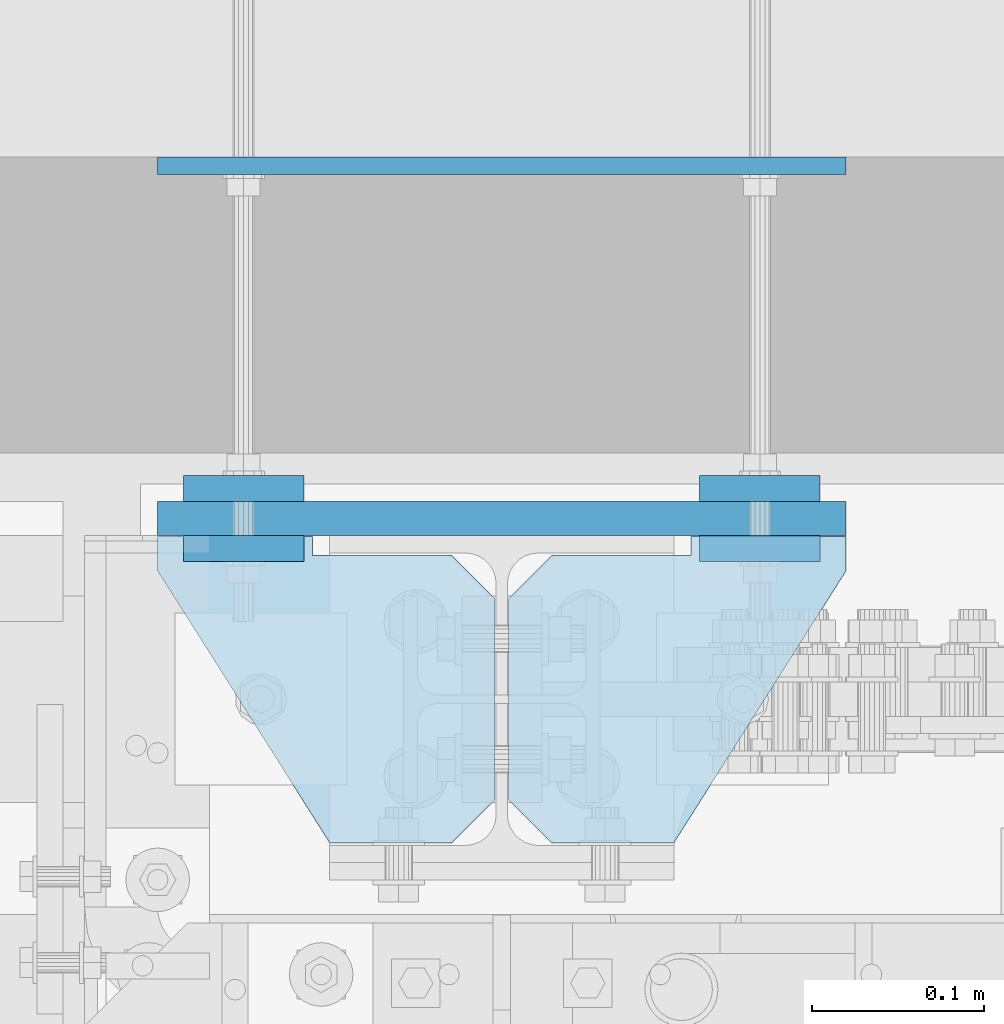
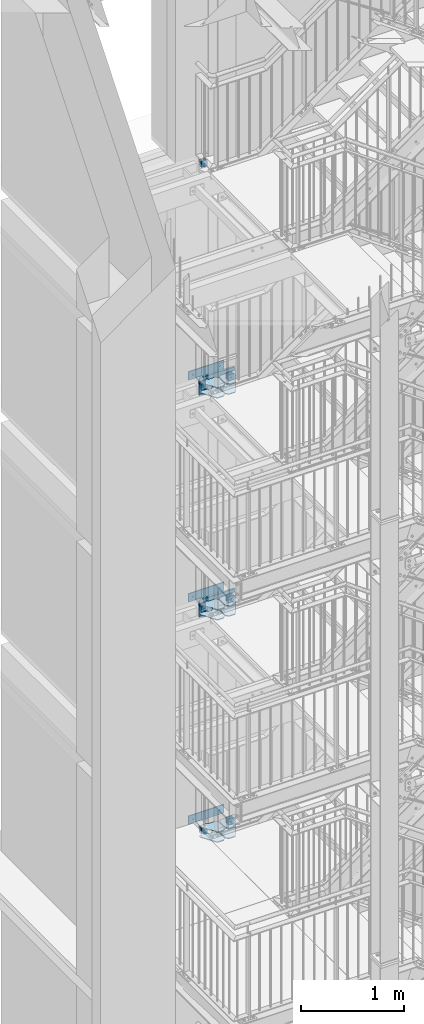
# One storey, part 183 of 821: 31 plates, 48 openings.
"""IFC2X3 building model written with IfcOpenShell, lengths in millimetres."""

from ifc_helpers import new_model, entity, si_unit, converted_unit, frame, frame_2d, origin, origin_with_axes, origin_2d_with_axis, place, context, project, spatial, polyline, circle, outline, extrude, material, layer, layer_set, element, save


model = new_model("IFC2X3")

# Units and contexts
model_context = context("Model", 3, precision=1e-09, world=origin_with_axes())
ifc_project = project(units=[si_unit("LENGTHUNIT", "METRE", prefix="MILLI"), si_unit("AREAUNIT", "SQUARE_METRE"), si_unit("VOLUMEUNIT", "CUBIC_METRE"), converted_unit("PLANEANGLEUNIT", "DEGREE", entity("IfcPlaneAngleMeasure", 0.01745329), si_unit("PLANEANGLEUNIT", "RADIAN"), dimensions=[0, 0, 0, 0, 0, 0, 0])], contexts=[model_context])

# Site, building, storey
site_placement = place(None, origin_with_axes())
site = spatial("IfcSite", under=ifc_project, at=site_placement, Name="Cnopf'sche Kinderklinik", CompositionType="ELEMENT")
building_placement = place(site_placement, origin_with_axes())
building = spatial("IfcBuilding", under=site, at=building_placement, Name="Struktur 1", CompositionType="ELEMENT")
storey_placement = place(building_placement, origin_with_axes())
storey = spatial("IfcBuildingStorey", under=building, at=storey_placement, Name="Default Storey", CompositionType="ELEMENT", Elevation=0.0)

# Plate, opening
ifc_material = material(Name="S235JR")
ifc_layer_1 = layer(ifc_material, 15.0)
ifc_layer_set_1 = layer_set([ifc_layer_1], Name="S235JR")
plate_1_placement = place(None, frame((4706.71340296, 7611.736971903, 7255.0), z_axis=(0.0, -1.0, 0.0), x_axis=(1.0, 0.0, 0.0)))
plate_1 = element("IfcPlate", 1, at=plate_1_placement, inside=storey, material=ifc_layer_set_1, Name="-", ObjectType="-", context=model_context, shape_type="SweptSolid", body=[
    extrude(outline(polyline([(-35.0, -35.0), (35.0, -35.0), (35.0, 35.0), (-35.0, 35.0), (-35.0, -35.0)])), origin_with_axes(), (0.0, 0.0, 1.0), 15.0),
])
opening_1_placement = place(plate_1_placement, frame((-2.68e-07, 0.0, -0.5), z_axis=(0.0, 0.0, 1.0), x_axis=(1.0, 0.0, 0.0)))
element("IfcOpeningElement", 2, at=opening_1_placement, cuts=plate_1, ObjectType="Opening", context=model_context, shape_type="SweptSolid", body=[
    extrude(circle(Radius=7.001, at=origin_2d_with_axis()), origin(), (0.0, 0.0, 1.0), 16.0),
])

plate_2_placement = place(None, frame((4706.71340296, 7646.736971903, 7255.0), z_axis=(0.0, -1.0, 0.0), x_axis=(1.0, 0.0, 0.0)))
plate_2 = element("IfcPlate", 3, at=plate_2_placement, inside=storey, material=ifc_layer_set_1, Name="-", ObjectType="-", context=model_context, shape_type="SweptSolid", body=[
    extrude(outline(polyline([(-35.0, -35.0), (35.0, -35.0), (35.0, 35.0), (-35.0, 35.0), (-35.0, -35.0)])), origin_with_axes(), (0.0, 0.0, 1.0), 15.0),
])
opening_2_placement = place(plate_2_placement, frame((-2.68e-07, 0.0, -0.5), z_axis=(0.0, 0.0, 1.0), x_axis=(1.0, 0.0, 0.0)))
element("IfcOpeningElement", 4, at=opening_2_placement, cuts=plate_2, ObjectType="Opening", context=model_context, shape_type="SweptSolid", body=[
    extrude(circle(Radius=7.001, at=origin_2d_with_axis()), origin(), (0.0, 0.0, 1.0), 16.0),
])

# Plate, openings
ifc_layer_2 = layer(ifc_material, 10.0)
ifc_layer_set_2 = layer_set([ifc_layer_2], Name="S235JR")
plate_3_placement = place(None, frame((4856.713402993, 7831.736971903, 7255.000000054), z_axis=(0.0, -1.0, 0.0), x_axis=(1.0, 0.0, 0.0)))
plate_3 = element("IfcPlate", 5, at=plate_3_placement, inside=storey, material=ifc_layer_set_2, Name="-", ObjectType="-", context=model_context, shape_type="SweptSolid", body=[
    extrude(outline(polyline([(-200.0, -50.0), (200.0, -50.0), (200.0, 50.0), (-200.0, 50.0), (-200.0, -50.0)])), origin_with_axes(), (0.0, 0.0, 1.0), 10.0),
])
opening_3_placement = place(plate_3_placement, frame((-3.4e-08, -5.4e-08, -0.5), z_axis=(0.0, 0.0, 1.0), x_axis=(1.0, 0.0, 0.0)))
element("IfcOpeningElement", 6, at=opening_3_placement, cuts=plate_3, ObjectType="Opening", context=model_context, shape_type="SweptSolid", body=[
    extrude(circle(Radius=7.001, at=frame_2d((150.0, 0.0), x_axis=(1.0, 0.0))), origin(), (0.0, 0.0, 1.0), 11.0),
])
opening_4_placement = place(plate_3_placement, frame((-3.4e-08, -5.4e-08, -0.5), z_axis=(0.0, 0.0, 1.0), x_axis=(1.0, 0.0, 0.0)))
element("IfcOpeningElement", 7, at=opening_4_placement, cuts=plate_3, ObjectType="Opening", context=model_context, shape_type="SweptSolid", body=[
    extrude(circle(Radius=7.001, at=frame_2d((-150.0, 0.0), x_axis=(1.0, 0.0))), origin(), (0.0, 0.0, 1.0), 11.0),
])

plate_4_placement = place(None, frame((4656.713402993, 7611.236971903, 7310.000000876), z_axis=(0.0, 0.0, 1.0), x_axis=(0.0, -1.0, 0.0)))
plate_4 = element("IfcPlate", 8, at=plate_4_placement, inside=storey, material=ifc_layer_set_2, Name="-", ObjectType="-", context=model_context, shape_type="SweptSolid", body=[
    extrude(outline(polyline([(0.0, 0.0), (20.0, 0.0), (178.0, 100.0), (178.0, 196.0), (11.0, 196.0), (11.0, 90.0), (0.0, 90.0), (0.0, 0.0)])), origin_with_axes(), (0.0, 0.0, 1.0), 10.0),
])
opening_5_placement = place(plate_4_placement, frame((0.0, 0.0, -0.01), z_axis=(0.0, 0.0, 1.0), x_axis=(1.0, 0.0, 0.0)))
element("IfcOpeningElement", 9, at=opening_5_placement, cuts=plate_4, ObjectType="Opening", context=model_context, shape_type="SweptSolid", body=[
    extrude(outline(polyline([(11.0, 196.0), (11.0, 171.0), (36.0, 196.0), (11.0, 196.0)])), origin(), (0.0, 0.0, 1.0), 10.02),
])
opening_6_placement = place(plate_4_placement, frame((0.0, 0.0, -0.01), z_axis=(0.0, 0.0, 1.0), x_axis=(1.0, 0.0, 0.0)))
element("IfcOpeningElement", 10, at=opening_6_placement, cuts=plate_4, ObjectType="Opening", context=model_context, shape_type="SweptSolid", body=[
    extrude(outline(polyline([(178.0, 196.0), (153.0, 196.0), (178.0, 171.0), (178.0, 196.0)])), origin(), (0.0, 0.0, 1.0), 10.02),
])

plate_5_placement = place(None, frame((5056.713402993, 7611.236971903, 7310.000000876), z_axis=(0.0, 0.0, -1.0), x_axis=(0.0, -1.0, 0.0)))
plate_5 = element("IfcPlate", 11, at=plate_5_placement, inside=storey, material=ifc_layer_set_2, Name="-", ObjectType="-", context=model_context, shape_type="SweptSolid", body=[
    extrude(outline(polyline([(0.0, 0.0), (20.0, 0.0), (178.0, 100.0), (178.0, 196.0), (11.0, 196.0), (11.0, 90.0), (0.0, 90.0), (0.0, 0.0)])), origin_with_axes(), (0.0, 0.0, -1.0), 10.0),
])
opening_7_placement = place(plate_5_placement, frame((11.0, 196.0, 0.01), z_axis=(0.0, 0.0, 1.0), x_axis=(0.0, -1.0, 0.0)))
element("IfcOpeningElement", 12, at=opening_7_placement, cuts=plate_5, ObjectType="Opening", context=model_context, shape_type="SweptSolid", body=[
    extrude(outline(polyline([(0.0, 0.0), (25.0, 0.0), (0.0, 25.0), (0.0, 0.0)])), origin(), (0.0, 0.0, -1.0), 10.02),
])
opening_8_placement = place(plate_5_placement, frame((178.0, 196.0, 0.01), z_axis=(0.0, 0.0, 1.0), x_axis=(-1.0, 0.0, 0.0)))
element("IfcOpeningElement", 13, at=opening_8_placement, cuts=plate_5, ObjectType="Opening", context=model_context, shape_type="SweptSolid", body=[
    extrude(outline(polyline([(0.0, 0.0), (25.0, 0.0), (0.0, 25.0), (0.0, 0.0)])), origin(), (0.0, 0.0, -1.0), 10.02),
])

plate_6_placement = place(None, frame((4656.713402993, 7611.236971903, 7190.000000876), z_axis=(0.0, 0.0, 1.0), x_axis=(0.0, -1.0, 0.0)))
plate_6 = element("IfcPlate", 14, at=plate_6_placement, inside=storey, material=ifc_layer_set_2, Name="-", ObjectType="-", context=model_context, shape_type="SweptSolid", body=[
    extrude(outline(polyline([(0.0, 0.0), (20.0, 0.0), (178.0, 100.0), (178.0, 196.0), (11.0, 196.0), (11.0, 90.0), (0.0, 90.0), (0.0, 0.0)])), origin_with_axes(), (0.0, 0.0, 1.0), 10.0),
])
opening_9_placement = place(plate_6_placement, frame((0.0, 0.0, -0.01), z_axis=(0.0, 0.0, 1.0), x_axis=(1.0, 0.0, 0.0)))
element("IfcOpeningElement", 15, at=opening_9_placement, cuts=plate_6, ObjectType="Opening", context=model_context, shape_type="SweptSolid", body=[
    extrude(outline(polyline([(11.0, 196.0), (11.0, 171.0), (36.0, 196.0), (11.0, 196.0)])), origin(), (0.0, 0.0, 1.0), 10.02),
])
opening_10_placement = place(plate_6_placement, frame((0.0, 0.0, -0.01), z_axis=(0.0, 0.0, 1.0), x_axis=(1.0, 0.0, 0.0)))
element("IfcOpeningElement", 16, at=opening_10_placement, cuts=plate_6, ObjectType="Opening", context=model_context, shape_type="SweptSolid", body=[
    extrude(outline(polyline([(178.0, 196.0), (153.0, 196.0), (178.0, 171.0), (178.0, 196.0)])), origin(), (0.0, 0.0, 1.0), 10.02),
])

plate_7_placement = place(None, frame((5056.713402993, 7611.236971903, 7190.000000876), z_axis=(0.0, 0.0, -1.0), x_axis=(0.0, -1.0, 0.0)))
plate_7 = element("IfcPlate", 17, at=plate_7_placement, inside=storey, material=ifc_layer_set_2, Name="-", ObjectType="-", context=model_context, shape_type="SweptSolid", body=[
    extrude(outline(polyline([(0.0, 0.0), (20.0, 0.0), (178.0, 100.0), (178.0, 196.0), (11.0, 196.0), (11.0, 90.0), (0.0, 90.0), (0.0, 0.0)])), origin_with_axes(), (0.0, 0.0, -1.0), 10.0),
])
opening_11_placement = place(plate_7_placement, frame((11.0, 196.0, 0.01), z_axis=(0.0, 0.0, 1.0), x_axis=(0.0, -1.0, 0.0)))
element("IfcOpeningElement", 18, at=opening_11_placement, cuts=plate_7, ObjectType="Opening", context=model_context, shape_type="SweptSolid", body=[
    extrude(outline(polyline([(0.0, 0.0), (25.0, 0.0), (0.0, 25.0), (0.0, 0.0)])), origin(), (0.0, 0.0, -1.0), 10.02),
])
opening_12_placement = place(plate_7_placement, frame((178.0, 196.0, 0.01), z_axis=(0.0, 0.0, 1.0), x_axis=(-1.0, 0.0, 0.0)))
element("IfcOpeningElement", 19, at=opening_12_placement, cuts=plate_7, ObjectType="Opening", context=model_context, shape_type="SweptSolid", body=[
    extrude(outline(polyline([(0.0, 0.0), (25.0, 0.0), (0.0, 25.0), (0.0, 0.0)])), origin(), (0.0, 0.0, -1.0), 10.02),
])

# Plate, opening
plate_8_placement = place(None, frame((5006.713403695, 7611.736971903, 7255.0), z_axis=(0.0, 1.0, 0.0), x_axis=(-1.0, 0.0, 0.0)))
plate_8 = element("IfcPlate", 20, at=plate_8_placement, inside=storey, material=ifc_layer_set_1, Name="-", ObjectType="-", context=model_context, shape_type="SweptSolid", body=[
    extrude(outline(polyline([(-35.0, -35.0), (35.0, -35.0), (35.0, 35.0), (-35.0, 35.0), (-35.0, -35.0)])), origin_with_axes(), (0.0, 0.0, -1.0), 15.0),
])
opening_13_placement = place(plate_8_placement, frame((-7.001000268, 0.0, 0.5), z_axis=(0.0, 0.0, 1.0), x_axis=(1.0, 0.0, 0.0)))
element("IfcOpeningElement", 21, at=opening_13_placement, cuts=plate_8, ObjectType="Opening", context=model_context, shape_type="SweptSolid", body=[
    extrude(circle(Radius=7.001, at=frame_2d((7.001, 0.0), x_axis=(1.0, 0.0))), origin(), (0.0, 0.0, -1.0), 16.0),
])

plate_9_placement = place(None, frame((5006.713403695, 7646.736971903, 7255.0), z_axis=(0.0, 1.0, 0.0), x_axis=(-1.0, 0.0, 0.0)))
plate_9 = element("IfcPlate", 22, at=plate_9_placement, inside=storey, material=ifc_layer_set_1, Name="-", ObjectType="-", context=model_context, shape_type="SweptSolid", body=[
    extrude(outline(polyline([(-35.0, -35.0), (35.0, -35.0), (35.0, 35.0), (-35.0, 35.0), (-35.0, -35.0)])), origin_with_axes(), (0.0, 0.0, -1.0), 15.0),
])
opening_14_placement = place(plate_9_placement, frame((-7.001000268, 0.0, 0.5), z_axis=(0.0, 0.0, 1.0), x_axis=(1.0, 0.0, 0.0)))
element("IfcOpeningElement", 23, at=opening_14_placement, cuts=plate_9, ObjectType="Opening", context=model_context, shape_type="SweptSolid", body=[
    extrude(circle(Radius=7.001, at=frame_2d((7.001, 0.0), x_axis=(1.0, 0.0))), origin(), (0.0, 0.0, -1.0), 16.0),
])

plate_10_placement = place(None, frame((5006.713403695, 7611.736971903, 9887.0), z_axis=(0.0, 1.0, 0.0), x_axis=(-1.0, 0.0, 0.0)))
plate_10 = element("IfcPlate", 24, at=plate_10_placement, inside=storey, material=ifc_layer_set_1, Name="-", ObjectType="-", context=model_context, shape_type="SweptSolid", body=[
    extrude(outline(polyline([(-35.0, -35.0), (35.0, -35.0), (35.0, 35.0), (-35.0, 35.0), (-35.0, -35.0)])), origin_with_axes(), (0.0, 0.0, -1.0), 15.0),
])
opening_15_placement = place(plate_10_placement, frame((-7.001000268, 0.0, 0.5), z_axis=(0.0, 0.0, 1.0), x_axis=(1.0, 0.0, 0.0)))
element("IfcOpeningElement", 25, at=opening_15_placement, cuts=plate_10, ObjectType="Opening", context=model_context, shape_type="SweptSolid", body=[
    extrude(circle(Radius=7.001, at=frame_2d((7.001, 0.0), x_axis=(1.0, 0.0))), origin(), (0.0, 0.0, -1.0), 16.0),
])

plate_11_placement = place(None, frame((5006.713403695, 7646.736971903, 9887.0), z_axis=(0.0, 1.0, 0.0), x_axis=(-1.0, 0.0, 0.0)))
plate_11 = element("IfcPlate", 26, at=plate_11_placement, inside=storey, material=ifc_layer_set_1, Name="-", ObjectType="-", context=model_context, shape_type="SweptSolid", body=[
    extrude(outline(polyline([(-35.0, -35.0), (35.0, -35.0), (35.0, 35.0), (-35.0, 35.0), (-35.0, -35.0)])), origin_with_axes(), (0.0, 0.0, -1.0), 15.0),
])
opening_16_placement = place(plate_11_placement, frame((-7.001000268, 0.0, 0.5), z_axis=(0.0, 0.0, 1.0), x_axis=(1.0, 0.0, 0.0)))
element("IfcOpeningElement", 27, at=opening_16_placement, cuts=plate_11, ObjectType="Opening", context=model_context, shape_type="SweptSolid", body=[
    extrude(circle(Radius=7.001, at=frame_2d((7.001, 0.0), x_axis=(1.0, 0.0))), origin(), (0.0, 0.0, -1.0), 16.0),
])

# Plate, openings
plate_12_placement = place(None, frame((4856.713402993, 7831.736971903, 9887.000000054), z_axis=(0.0, -1.0, 0.0), x_axis=(1.0, 0.0, 0.0)))
plate_12 = element("IfcPlate", 28, at=plate_12_placement, inside=storey, material=ifc_layer_set_2, Name="-", ObjectType="-", context=model_context, shape_type="SweptSolid", body=[
    extrude(outline(polyline([(-200.0, -50.0), (200.0, -50.0), (200.0, 50.0), (-200.0, 50.0), (-200.0, -50.0)])), origin_with_axes(), (0.0, 0.0, 1.0), 10.0),
])
opening_17_placement = place(plate_12_placement, frame((-3.4e-08, -5.4e-08, -0.5), z_axis=(0.0, 0.0, 1.0), x_axis=(1.0, 0.0, 0.0)))
element("IfcOpeningElement", 29, at=opening_17_placement, cuts=plate_12, ObjectType="Opening", context=model_context, shape_type="SweptSolid", body=[
    extrude(circle(Radius=7.001, at=frame_2d((150.0, 0.0), x_axis=(1.0, 0.0))), origin(), (0.0, 0.0, 1.0), 11.0),
])
opening_18_placement = place(plate_12_placement, frame((-3.4e-08, -5.4e-08, -0.5), z_axis=(0.0, 0.0, 1.0), x_axis=(1.0, 0.0, 0.0)))
element("IfcOpeningElement", 30, at=opening_18_placement, cuts=plate_12, ObjectType="Opening", context=model_context, shape_type="SweptSolid", body=[
    extrude(circle(Radius=7.001, at=frame_2d((-150.0, 0.0), x_axis=(1.0, 0.0))), origin(), (0.0, 0.0, 1.0), 11.0),
])

plate_13_placement = place(None, frame((4656.713402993, 7611.236971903, 9942.000000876), z_axis=(0.0, 0.0, 1.0), x_axis=(0.0, -1.0, 0.0)))
plate_13 = element("IfcPlate", 31, at=plate_13_placement, inside=storey, material=ifc_layer_set_2, Name="-", ObjectType="-", context=model_context, shape_type="SweptSolid", body=[
    extrude(outline(polyline([(0.0, 0.0), (20.0, 0.0), (178.0, 100.0), (178.0, 196.0), (11.0, 196.0), (11.0, 90.0), (0.0, 90.0), (0.0, 0.0)])), origin_with_axes(), (0.0, 0.0, 1.0), 10.0),
])
opening_19_placement = place(plate_13_placement, frame((0.0, 0.0, -0.01), z_axis=(0.0, 0.0, 1.0), x_axis=(1.0, 0.0, 0.0)))
element("IfcOpeningElement", 32, at=opening_19_placement, cuts=plate_13, ObjectType="Opening", context=model_context, shape_type="SweptSolid", body=[
    extrude(outline(polyline([(11.0, 196.0), (11.0, 171.0), (36.0, 196.0), (11.0, 196.0)])), origin(), (0.0, 0.0, 1.0), 10.02),
])
opening_20_placement = place(plate_13_placement, frame((0.0, 0.0, -0.01), z_axis=(0.0, 0.0, 1.0), x_axis=(1.0, 0.0, 0.0)))
element("IfcOpeningElement", 33, at=opening_20_placement, cuts=plate_13, ObjectType="Opening", context=model_context, shape_type="SweptSolid", body=[
    extrude(outline(polyline([(178.0, 196.0), (153.0, 196.0), (178.0, 171.0), (178.0, 196.0)])), origin(), (0.0, 0.0, 1.0), 10.02),
])

plate_14_placement = place(None, frame((5056.713402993, 7611.236971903, 9942.000000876), z_axis=(0.0, 0.0, -1.0), x_axis=(0.0, -1.0, 0.0)))
plate_14 = element("IfcPlate", 34, at=plate_14_placement, inside=storey, material=ifc_layer_set_2, Name="-", ObjectType="-", context=model_context, shape_type="SweptSolid", body=[
    extrude(outline(polyline([(0.0, 0.0), (20.0, 0.0), (178.0, 100.0), (178.0, 196.0), (11.0, 196.0), (11.0, 90.0), (0.0, 90.0), (0.0, 0.0)])), origin_with_axes(), (0.0, 0.0, -1.0), 10.0),
])
opening_21_placement = place(plate_14_placement, frame((11.0, 196.0, 0.01), z_axis=(0.0, 0.0, 1.0), x_axis=(0.0, -1.0, 0.0)))
element("IfcOpeningElement", 35, at=opening_21_placement, cuts=plate_14, ObjectType="Opening", context=model_context, shape_type="SweptSolid", body=[
    extrude(outline(polyline([(0.0, 0.0), (25.0, 0.0), (0.0, 25.0), (0.0, 0.0)])), origin(), (0.0, 0.0, -1.0), 10.02),
])
opening_22_placement = place(plate_14_placement, frame((178.0, 196.0, 0.01), z_axis=(0.0, 0.0, 1.0), x_axis=(-1.0, 0.0, 0.0)))
element("IfcOpeningElement", 36, at=opening_22_placement, cuts=plate_14, ObjectType="Opening", context=model_context, shape_type="SweptSolid", body=[
    extrude(outline(polyline([(0.0, 0.0), (25.0, 0.0), (0.0, 25.0), (0.0, 0.0)])), origin(), (0.0, 0.0, -1.0), 10.02),
])

plate_15_placement = place(None, frame((4656.713402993, 7611.236971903, 9822.000000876), z_axis=(0.0, 0.0, 1.0), x_axis=(0.0, -1.0, 0.0)))
plate_15 = element("IfcPlate", 37, at=plate_15_placement, inside=storey, material=ifc_layer_set_2, Name="-", ObjectType="-", context=model_context, shape_type="SweptSolid", body=[
    extrude(outline(polyline([(0.0, 0.0), (20.0, 0.0), (178.0, 100.0), (178.0, 196.0), (11.0, 196.0), (11.0, 90.0), (0.0, 90.0), (0.0, 0.0)])), origin_with_axes(), (0.0, 0.0, 1.0), 10.0),
])
opening_23_placement = place(plate_15_placement, frame((0.0, 0.0, -0.01), z_axis=(0.0, 0.0, 1.0), x_axis=(1.0, 0.0, 0.0)))
element("IfcOpeningElement", 38, at=opening_23_placement, cuts=plate_15, ObjectType="Opening", context=model_context, shape_type="SweptSolid", body=[
    extrude(outline(polyline([(11.0, 196.0), (11.0, 171.0), (36.0, 196.0), (11.0, 196.0)])), origin(), (0.0, 0.0, 1.0), 10.02),
])
opening_24_placement = place(plate_15_placement, frame((0.0, 0.0, -0.01), z_axis=(0.0, 0.0, 1.0), x_axis=(1.0, 0.0, 0.0)))
element("IfcOpeningElement", 39, at=opening_24_placement, cuts=plate_15, ObjectType="Opening", context=model_context, shape_type="SweptSolid", body=[
    extrude(outline(polyline([(178.0, 196.0), (153.0, 196.0), (178.0, 171.0), (178.0, 196.0)])), origin(), (0.0, 0.0, 1.0), 10.02),
])

plate_16_placement = place(None, frame((5056.713402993, 7611.236971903, 9822.000000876), z_axis=(0.0, 0.0, -1.0), x_axis=(0.0, -1.0, 0.0)))
plate_16 = element("IfcPlate", 40, at=plate_16_placement, inside=storey, material=ifc_layer_set_2, Name="-", ObjectType="-", context=model_context, shape_type="SweptSolid", body=[
    extrude(outline(polyline([(0.0, 0.0), (20.0, 0.0), (178.0, 100.0), (178.0, 196.0), (11.0, 196.0), (11.0, 90.0), (0.0, 90.0), (0.0, 0.0)])), origin_with_axes(), (0.0, 0.0, -1.0), 10.0),
])
opening_25_placement = place(plate_16_placement, frame((11.0, 196.0, 0.01), z_axis=(0.0, 0.0, 1.0), x_axis=(0.0, -1.0, 0.0)))
element("IfcOpeningElement", 41, at=opening_25_placement, cuts=plate_16, ObjectType="Opening", context=model_context, shape_type="SweptSolid", body=[
    extrude(outline(polyline([(0.0, 0.0), (25.0, 0.0), (0.0, 25.0), (0.0, 0.0)])), origin(), (0.0, 0.0, -1.0), 10.02),
])
opening_26_placement = place(plate_16_placement, frame((178.0, 196.0, 0.01), z_axis=(0.0, 0.0, 1.0), x_axis=(-1.0, 0.0, 0.0)))
element("IfcOpeningElement", 42, at=opening_26_placement, cuts=plate_16, ObjectType="Opening", context=model_context, shape_type="SweptSolid", body=[
    extrude(outline(polyline([(0.0, 0.0), (25.0, 0.0), (0.0, 25.0), (0.0, 0.0)])), origin(), (0.0, 0.0, -1.0), 10.02),
])

ifc_layer_3 = layer(ifc_material, 20.0)
ifc_layer_set_3 = layer_set([ifc_layer_3], Name="S235JR")
plate_17_placement = place(None, frame((4856.713402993, 7631.736971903, 9887.000000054), z_axis=(0.0, -1.0, 0.0), x_axis=(1.0, 0.0, 0.0)))
plate_17 = element("IfcPlate", 43, at=plate_17_placement, inside=storey, material=ifc_layer_set_3, Name="-", ObjectType="-", context=model_context, shape_type="SweptSolid", body=[
    extrude(outline(polyline([(-200.0, -100.0), (200.0, -100.0), (200.0, 100.0), (-200.0, 100.0), (-200.0, -100.0)])), origin_with_axes(), (0.0, 0.0, 1.0), 20.0),
])
opening_27_placement = place(plate_17_placement, frame((-3.4e-08, -5.4e-08, -0.5), z_axis=(0.0, 0.0, 1.0), x_axis=(1.0, 0.0, 0.0)))
element("IfcOpeningElement", 44, at=opening_27_placement, cuts=plate_17, ObjectType="Opening", context=model_context, shape_type="SweptSolid", body=[
    extrude(circle(Radius=20.001, at=frame_2d((150.0, 0.0), x_axis=(1.0, 0.0))), origin(), (0.0, 0.0, 1.0), 21.0),
])
opening_28_placement = place(plate_17_placement, frame((-3.4e-08, -5.4e-08, -0.5), z_axis=(0.0, 0.0, 1.0), x_axis=(1.0, 0.0, 0.0)))
element("IfcOpeningElement", 45, at=opening_28_placement, cuts=plate_17, ObjectType="Opening", context=model_context, shape_type="SweptSolid", body=[
    extrude(circle(Radius=20.001, at=frame_2d((-150.0, 0.0), x_axis=(1.0, 0.0))), origin(), (0.0, 0.0, 1.0), 21.0),
])

# Plate, opening
plate_18_placement = place(None, frame((4706.71340296, 7611.736971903, 9887.0), z_axis=(0.0, -1.0, 0.0), x_axis=(1.0, 0.0, 0.0)))
plate_18 = element("IfcPlate", 46, at=plate_18_placement, inside=storey, material=ifc_layer_set_1, Name="-", ObjectType="-", context=model_context, shape_type="SweptSolid", body=[
    extrude(outline(polyline([(-35.0, -35.0), (35.0, -35.0), (35.0, 35.0), (-35.0, 35.0), (-35.0, -35.0)])), origin_with_axes(), (0.0, 0.0, 1.0), 15.0),
])
opening_29_placement = place(plate_18_placement, frame((-2.68e-07, 0.0, -0.5), z_axis=(0.0, 0.0, 1.0), x_axis=(1.0, 0.0, 0.0)))
element("IfcOpeningElement", 47, at=opening_29_placement, cuts=plate_18, ObjectType="Opening", context=model_context, shape_type="SweptSolid", body=[
    extrude(circle(Radius=7.001, at=origin_2d_with_axis()), origin(), (0.0, 0.0, 1.0), 16.0),
])

plate_19_placement = place(None, frame((4706.71340296, 7646.736971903, 9887.0), z_axis=(0.0, -1.0, 0.0), x_axis=(1.0, 0.0, 0.0)))
plate_19 = element("IfcPlate", 48, at=plate_19_placement, inside=storey, material=ifc_layer_set_1, Name="-", ObjectType="-", context=model_context, shape_type="SweptSolid", body=[
    extrude(outline(polyline([(-35.0, -35.0), (35.0, -35.0), (35.0, 35.0), (-35.0, 35.0), (-35.0, -35.0)])), origin_with_axes(), (0.0, 0.0, 1.0), 15.0),
])
opening_30_placement = place(plate_19_placement, frame((-2.68e-07, 0.0, -0.5), z_axis=(0.0, 0.0, 1.0), x_axis=(1.0, 0.0, 0.0)))
element("IfcOpeningElement", 49, at=opening_30_placement, cuts=plate_19, ObjectType="Opening", context=model_context, shape_type="SweptSolid", body=[
    extrude(circle(Radius=7.001, at=origin_2d_with_axis()), origin(), (0.0, 0.0, 1.0), 16.0),
])

plate_20_placement = place(None, frame((4706.71340296, 7611.736971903, 12514.0), z_axis=(0.0, -1.0, 0.0), x_axis=(1.0, 0.0, 0.0)))
plate_20 = element("IfcPlate", 50, at=plate_20_placement, inside=storey, material=ifc_layer_set_1, Name="-", ObjectType="-", context=model_context, shape_type="SweptSolid", body=[
    extrude(outline(polyline([(-35.0, -35.0), (35.0, -35.0), (35.0, 35.0), (-35.0, 35.0), (-35.0, -35.0)])), origin_with_axes(), (0.0, 0.0, 1.0), 15.0),
])
opening_31_placement = place(plate_20_placement, frame((-2.68e-07, 0.0, -0.5), z_axis=(0.0, 0.0, 1.0), x_axis=(1.0, 0.0, 0.0)))
element("IfcOpeningElement", 51, at=opening_31_placement, cuts=plate_20, ObjectType="Opening", context=model_context, shape_type="SweptSolid", body=[
    extrude(circle(Radius=7.001, at=origin_2d_with_axis()), origin(), (0.0, 0.0, 1.0), 16.0),
])

# Plate, openings
plate_21_placement = place(None, frame((5056.713402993, 7611.236971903, 12449.000000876), z_axis=(0.0, 0.0, -1.0), x_axis=(0.0, -1.0, 0.0)))
plate_21 = element("IfcPlate", 52, at=plate_21_placement, inside=storey, material=ifc_layer_set_2, Name="-", ObjectType="-", context=model_context, shape_type="SweptSolid", body=[
    extrude(outline(polyline([(0.0, 0.0), (20.0, 0.0), (178.0, 100.0), (178.0, 196.0), (11.0, 196.0), (11.0, 90.0), (0.0, 90.0), (0.0, 0.0)])), origin_with_axes(), (0.0, 0.0, -1.0), 10.0),
])
opening_32_placement = place(plate_21_placement, frame((11.0, 196.0, 0.01), z_axis=(0.0, 0.0, 1.0), x_axis=(0.0, -1.0, 0.0)))
element("IfcOpeningElement", 53, at=opening_32_placement, cuts=plate_21, ObjectType="Opening", context=model_context, shape_type="SweptSolid", body=[
    extrude(outline(polyline([(0.0, 0.0), (25.0, 0.0), (0.0, 25.0), (0.0, 0.0)])), origin(), (0.0, 0.0, -1.0), 10.02),
])
opening_33_placement = place(plate_21_placement, frame((178.0, 196.0, 0.01), z_axis=(0.0, 0.0, 1.0), x_axis=(-1.0, 0.0, 0.0)))
element("IfcOpeningElement", 54, at=opening_33_placement, cuts=plate_21, ObjectType="Opening", context=model_context, shape_type="SweptSolid", body=[
    extrude(outline(polyline([(0.0, 0.0), (25.0, 0.0), (0.0, 25.0), (0.0, 0.0)])), origin(), (0.0, 0.0, -1.0), 10.02),
])

plate_22_placement = place(None, frame((5056.713402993, 7611.236971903, 12569.000000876), z_axis=(0.0, 0.0, -1.0), x_axis=(0.0, -1.0, 0.0)))
plate_22 = element("IfcPlate", 55, at=plate_22_placement, inside=storey, material=ifc_layer_set_2, Name="-", ObjectType="-", context=model_context, shape_type="SweptSolid", body=[
    extrude(outline(polyline([(0.0, 0.0), (20.0, 0.0), (178.0, 100.0), (178.0, 196.0), (11.0, 196.0), (11.0, 90.0), (0.0, 90.0), (0.0, 0.0)])), origin_with_axes(), (0.0, 0.0, -1.0), 10.0),
])
opening_34_placement = place(plate_22_placement, frame((11.0, 196.0, 0.01), z_axis=(0.0, 0.0, 1.0), x_axis=(0.0, -1.0, 0.0)))
element("IfcOpeningElement", 56, at=opening_34_placement, cuts=plate_22, ObjectType="Opening", context=model_context, shape_type="SweptSolid", body=[
    extrude(outline(polyline([(0.0, 0.0), (25.0, 0.0), (0.0, 25.0), (0.0, 0.0)])), origin(), (0.0, 0.0, -1.0), 10.02),
])
opening_35_placement = place(plate_22_placement, frame((178.0, 196.0, 0.01), z_axis=(0.0, 0.0, 1.0), x_axis=(-1.0, 0.0, 0.0)))
element("IfcOpeningElement", 57, at=opening_35_placement, cuts=plate_22, ObjectType="Opening", context=model_context, shape_type="SweptSolid", body=[
    extrude(outline(polyline([(0.0, 0.0), (25.0, 0.0), (0.0, 25.0), (0.0, 0.0)])), origin(), (0.0, 0.0, -1.0), 10.02),
])

plate_23_placement = place(None, frame((4656.713402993, 7611.236971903, 12449.000000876), z_axis=(0.0, 0.0, 1.0), x_axis=(0.0, -1.0, 0.0)))
plate_23 = element("IfcPlate", 58, at=plate_23_placement, inside=storey, material=ifc_layer_set_2, Name="-", ObjectType="-", context=model_context, shape_type="SweptSolid", body=[
    extrude(outline(polyline([(0.0, 0.0), (20.0, 0.0), (178.0, 100.0), (178.0, 196.0), (11.0, 196.0), (11.0, 90.0), (0.0, 90.0), (0.0, 0.0)])), origin_with_axes(), (0.0, 0.0, 1.0), 10.0),
])
opening_36_placement = place(plate_23_placement, frame((0.0, 0.0, -0.01), z_axis=(0.0, 0.0, 1.0), x_axis=(1.0, 0.0, 0.0)))
element("IfcOpeningElement", 59, at=opening_36_placement, cuts=plate_23, ObjectType="Opening", context=model_context, shape_type="SweptSolid", body=[
    extrude(outline(polyline([(11.0, 196.0), (11.0, 171.0), (36.0, 196.0), (11.0, 196.0)])), origin(), (0.0, 0.0, 1.0), 10.02),
])
opening_37_placement = place(plate_23_placement, frame((0.0, 0.0, -0.01), z_axis=(0.0, 0.0, 1.0), x_axis=(1.0, 0.0, 0.0)))
element("IfcOpeningElement", 60, at=opening_37_placement, cuts=plate_23, ObjectType="Opening", context=model_context, shape_type="SweptSolid", body=[
    extrude(outline(polyline([(178.0, 196.0), (153.0, 196.0), (178.0, 171.0), (178.0, 196.0)])), origin(), (0.0, 0.0, 1.0), 10.02),
])

plate_24_placement = place(None, frame((4656.713402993, 7611.236971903, 12569.000000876), z_axis=(0.0, 0.0, 1.0), x_axis=(0.0, -1.0, 0.0)))
plate_24 = element("IfcPlate", 61, at=plate_24_placement, inside=storey, material=ifc_layer_set_2, Name="-", ObjectType="-", context=model_context, shape_type="SweptSolid", body=[
    extrude(outline(polyline([(0.0, 0.0), (20.0, 0.0), (178.0, 100.0), (178.0, 196.0), (11.0, 196.0), (11.0, 90.0), (0.0, 90.0), (0.0, 0.0)])), origin_with_axes(), (0.0, 0.0, 1.0), 10.0),
])
opening_38_placement = place(plate_24_placement, frame((0.0, 0.0, -0.01), z_axis=(0.0, 0.0, 1.0), x_axis=(1.0, 0.0, 0.0)))
element("IfcOpeningElement", 62, at=opening_38_placement, cuts=plate_24, ObjectType="Opening", context=model_context, shape_type="SweptSolid", body=[
    extrude(outline(polyline([(11.0, 196.0), (11.0, 171.0), (36.0, 196.0), (11.0, 196.0)])), origin(), (0.0, 0.0, 1.0), 10.02),
])
opening_39_placement = place(plate_24_placement, frame((0.0, 0.0, -0.01), z_axis=(0.0, 0.0, 1.0), x_axis=(1.0, 0.0, 0.0)))
element("IfcOpeningElement", 63, at=opening_39_placement, cuts=plate_24, ObjectType="Opening", context=model_context, shape_type="SweptSolid", body=[
    extrude(outline(polyline([(178.0, 196.0), (153.0, 196.0), (178.0, 171.0), (178.0, 196.0)])), origin(), (0.0, 0.0, 1.0), 10.02),
])

plate_25_placement = place(None, frame((4856.713402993, 7631.736971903, 12514.000000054), z_axis=(0.0, -1.0, 0.0), x_axis=(1.0, 0.0, 0.0)))
plate_25 = element("IfcPlate", 64, at=plate_25_placement, inside=storey, material=ifc_layer_set_3, Name="-", ObjectType="-", context=model_context, shape_type="SweptSolid", body=[
    extrude(outline(polyline([(-200.0, -100.0), (200.0, -100.0), (200.0, 100.0), (-200.0, 100.0), (-200.0, -100.0)])), origin_with_axes(), (0.0, 0.0, 1.0), 20.0),
])
opening_40_placement = place(plate_25_placement, frame((-3.4e-08, -5.4e-08, -0.5), z_axis=(0.0, 0.0, 1.0), x_axis=(1.0, 0.0, 0.0)))
element("IfcOpeningElement", 65, at=opening_40_placement, cuts=plate_25, ObjectType="Opening", context=model_context, shape_type="SweptSolid", body=[
    extrude(circle(Radius=20.001, at=frame_2d((150.0, 0.0), x_axis=(1.0, 0.0))), origin(), (0.0, 0.0, 1.0), 21.0),
])
opening_41_placement = place(plate_25_placement, frame((-3.4e-08, -5.4e-08, -0.5), z_axis=(0.0, 0.0, 1.0), x_axis=(1.0, 0.0, 0.0)))
element("IfcOpeningElement", 66, at=opening_41_placement, cuts=plate_25, ObjectType="Opening", context=model_context, shape_type="SweptSolid", body=[
    extrude(circle(Radius=20.001, at=frame_2d((-150.0, 0.0), x_axis=(1.0, 0.0))), origin(), (0.0, 0.0, 1.0), 21.0),
])

# Plate, opening
plate_26_placement = place(None, frame((5006.713403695, 7646.736971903, 12514.0), z_axis=(0.0, 1.0, 0.0), x_axis=(-1.0, 0.0, 0.0)))
plate_26 = element("IfcPlate", 67, at=plate_26_placement, inside=storey, material=ifc_layer_set_1, Name="-", ObjectType="-", context=model_context, shape_type="SweptSolid", body=[
    extrude(outline(polyline([(-35.0, -35.0), (35.0, -35.0), (35.0, 35.0), (-35.0, 35.0), (-35.0, -35.0)])), origin_with_axes(), (0.0, 0.0, -1.0), 15.0),
])
opening_42_placement = place(plate_26_placement, frame((-7.001000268, 0.0, 0.5), z_axis=(0.0, 0.0, 1.0), x_axis=(1.0, 0.0, 0.0)))
element("IfcOpeningElement", 68, at=opening_42_placement, cuts=plate_26, ObjectType="Opening", context=model_context, shape_type="SweptSolid", body=[
    extrude(circle(Radius=7.001, at=frame_2d((7.001, 0.0), x_axis=(1.0, 0.0))), origin(), (0.0, 0.0, -1.0), 16.0),
])

plate_27_placement = place(None, frame((5006.713403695, 7611.736971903, 12514.0), z_axis=(0.0, 1.0, 0.0), x_axis=(-1.0, 0.0, 0.0)))
plate_27 = element("IfcPlate", 69, at=plate_27_placement, inside=storey, material=ifc_layer_set_1, Name="-", ObjectType="-", context=model_context, shape_type="SweptSolid", body=[
    extrude(outline(polyline([(-35.0, -35.0), (35.0, -35.0), (35.0, 35.0), (-35.0, 35.0), (-35.0, -35.0)])), origin_with_axes(), (0.0, 0.0, -1.0), 15.0),
])
opening_43_placement = place(plate_27_placement, frame((-7.001000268, 0.0, 0.5), z_axis=(0.0, 0.0, 1.0), x_axis=(1.0, 0.0, 0.0)))
element("IfcOpeningElement", 70, at=opening_43_placement, cuts=plate_27, ObjectType="Opening", context=model_context, shape_type="SweptSolid", body=[
    extrude(circle(Radius=7.001, at=frame_2d((7.001, 0.0), x_axis=(1.0, 0.0))), origin(), (0.0, 0.0, -1.0), 16.0),
])

# Plate, openings
plate_28_placement = place(None, frame((4856.713402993, 7831.736971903, 12514.000000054), z_axis=(0.0, -1.0, 0.0), x_axis=(1.0, 0.0, 0.0)))
plate_28 = element("IfcPlate", 71, at=plate_28_placement, inside=storey, material=ifc_layer_set_2, Name="-", ObjectType="-", context=model_context, shape_type="SweptSolid", body=[
    extrude(outline(polyline([(-200.0, -50.0), (200.0, -50.0), (200.0, 50.0), (-200.0, 50.0), (-200.0, -50.0)])), origin_with_axes(), (0.0, 0.0, 1.0), 10.0),
])
opening_44_placement = place(plate_28_placement, frame((-3.4e-08, -5.4e-08, -0.5), z_axis=(0.0, 0.0, 1.0), x_axis=(1.0, 0.0, 0.0)))
element("IfcOpeningElement", 72, at=opening_44_placement, cuts=plate_28, ObjectType="Opening", context=model_context, shape_type="SweptSolid", body=[
    extrude(circle(Radius=7.001, at=frame_2d((150.0, 0.0), x_axis=(1.0, 0.0))), origin(), (0.0, 0.0, 1.0), 11.0),
])
opening_45_placement = place(plate_28_placement, frame((-3.4e-08, -5.4e-08, -0.5), z_axis=(0.0, 0.0, 1.0), x_axis=(1.0, 0.0, 0.0)))
element("IfcOpeningElement", 73, at=opening_45_placement, cuts=plate_28, ObjectType="Opening", context=model_context, shape_type="SweptSolid", body=[
    extrude(circle(Radius=7.001, at=frame_2d((-150.0, 0.0), x_axis=(1.0, 0.0))), origin(), (0.0, 0.0, 1.0), 11.0),
])

# Plate, opening
plate_29_placement = place(None, frame((4706.71340296, 7646.736971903, 12514.0), z_axis=(0.0, -1.0, 0.0), x_axis=(1.0, 0.0, 0.0)))
plate_29 = element("IfcPlate", 74, at=plate_29_placement, inside=storey, material=ifc_layer_set_1, Name="-", ObjectType="-", context=model_context, shape_type="SweptSolid", body=[
    extrude(outline(polyline([(-35.0, -35.0), (35.0, -35.0), (35.0, 35.0), (-35.0, 35.0), (-35.0, -35.0)])), origin_with_axes(), (0.0, 0.0, 1.0), 15.0),
])
opening_46_placement = place(plate_29_placement, frame((-2.68e-07, 0.0, -0.5), z_axis=(0.0, 0.0, 1.0), x_axis=(1.0, 0.0, 0.0)))
element("IfcOpeningElement", 75, at=opening_46_placement, cuts=plate_29, ObjectType="Opening", context=model_context, shape_type="SweptSolid", body=[
    extrude(circle(Radius=7.001, at=origin_2d_with_axis()), origin(), (0.0, 0.0, 1.0), 16.0),
])

plate_30_placement = place(None, frame((4706.71340296, 7611.736971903, 15149.0), z_axis=(0.0, -1.0, 0.0), x_axis=(1.0, 0.0, 0.0)))
plate_30 = element("IfcPlate", 76, at=plate_30_placement, inside=storey, material=ifc_layer_set_1, Name="-", ObjectType="-", context=model_context, shape_type="SweptSolid", body=[
    extrude(outline(polyline([(-35.0, -35.0), (35.0, -35.0), (35.0, 35.0), (-35.0, 35.0), (-35.0, -35.0)])), origin_with_axes(), (0.0, 0.0, 1.0), 15.0),
])
opening_47_placement = place(plate_30_placement, frame((-2.68e-07, 0.0, -0.5), z_axis=(0.0, 0.0, 1.0), x_axis=(1.0, 0.0, 0.0)))
element("IfcOpeningElement", 77, at=opening_47_placement, cuts=plate_30, ObjectType="Opening", context=model_context, shape_type="SweptSolid", body=[
    extrude(circle(Radius=7.001, at=origin_2d_with_axis()), origin(), (0.0, 0.0, 1.0), 16.0),
])

plate_31_placement = place(None, frame((4706.71340296, 7646.736971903, 15149.0), z_axis=(0.0, -1.0, 0.0), x_axis=(1.0, 0.0, 0.0)))
plate_31 = element("IfcPlate", 78, at=plate_31_placement, inside=storey, material=ifc_layer_set_1, Name="-", ObjectType="-", context=model_context, shape_type="SweptSolid", body=[
    extrude(outline(polyline([(-35.0, -35.0), (35.0, -35.0), (35.0, 35.0), (-35.0, 35.0), (-35.0, -35.0)])), origin_with_axes(), (0.0, 0.0, 1.0), 15.0),
])
opening_48_placement = place(plate_31_placement, frame((-2.68e-07, 0.0, -0.5), z_axis=(0.0, 0.0, 1.0), x_axis=(1.0, 0.0, 0.0)))
element("IfcOpeningElement", 79, at=opening_48_placement, cuts=plate_31, ObjectType="Opening", context=model_context, shape_type="SweptSolid", body=[
    extrude(circle(Radius=7.001, at=origin_2d_with_axis()), origin(), (0.0, 0.0, 1.0), 16.0),
])

save(model, "model.ifc")
